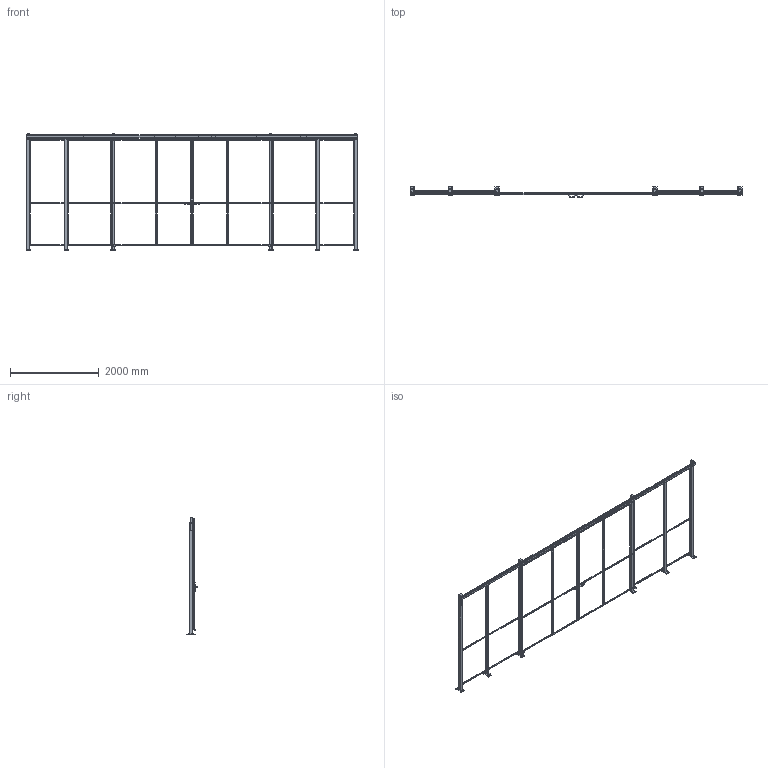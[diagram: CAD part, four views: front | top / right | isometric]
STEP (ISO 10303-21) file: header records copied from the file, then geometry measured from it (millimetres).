
FILE_DESCRIPTION(/* description */ (''),/* implementation_level */ '2;1');
FILE_NAME(/* name */ 'C:\SafeGuarding\ELABORATI\HOR§VED_2025-04-01-13-04-08.stp',/* time_stamp */ '2025-04-01T13:04:14+02:00',/* author */ ('admin'),/* organization */ (''),/* preprocessor_version */ 'ST-DEVELOPER v18.1',/* originating_system */ 'AutoCAD Mechanical',/* authorisation */ '');
FILE_SCHEMA (('AUTOMOTIVE_DESIGN { 1 0 10303 214 3 1 1 }'));
Length unit declared in the file: millimetre
Products named in the file (4): Product; VFPA.REPE2010002400; VFPA.REPE2008002400; P_VFMA.V260SDU.2520
Assembly tree (14 placements, depth 2):
  Product
    VFPA.REPE2010002400  x4
    VFPA.REPE2008002400  x4
    P_VFMA.V260SDU.2520  x6
Bounding box: 7499.99 x 235.91 x 2654 mm (x, y, z)
Volume: 94423794 mm3; surface area: 13177703.4 mm2
Topology: 52 solids, 74 shells, 746 faces, 2818 edges, 2992 vertices
Faces by surface type: plane 682, cylinder 64
Full cylindrical faces by diameter (mm): 11 x24, 12 x4, 14 x4, 15 x8, 40 x8
Entity records: 18635 total; most frequent: CARTESIAN_POINT 3962, DIRECTION 2764, ORIENTED_EDGE 2748, EDGE_CURVE 1472, LINE 1384, VECTOR 1384, VERTEX_POINT 1064, AXIS2_PLACEMENT_3D 690
